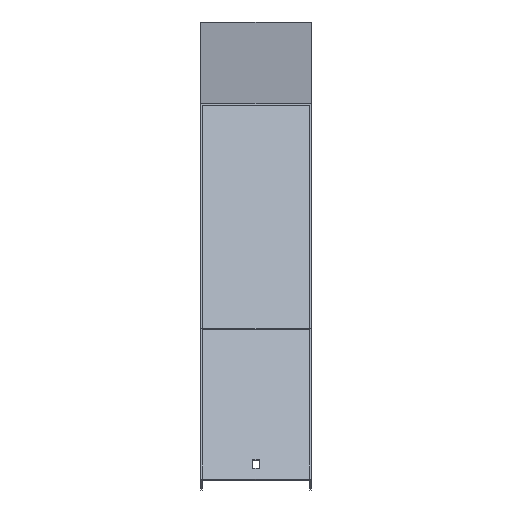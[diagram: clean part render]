
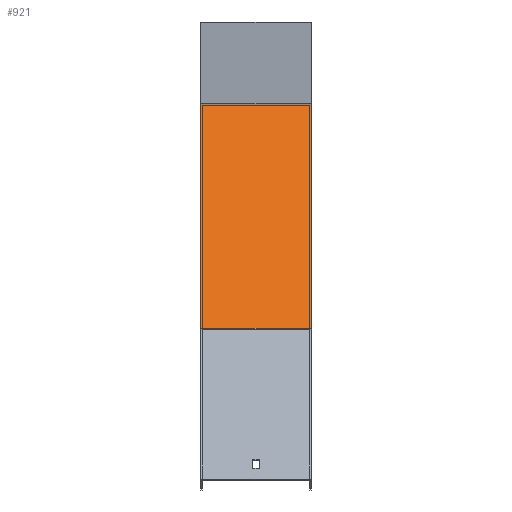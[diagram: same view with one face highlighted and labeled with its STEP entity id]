
A CAD part, top view. The second image highlights one B-rep face of the part: STEP entity #921.
In plain terms, the highlighted planar face has unit normal (0, 0.707, 0.707).
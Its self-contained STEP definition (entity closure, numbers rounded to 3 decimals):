
#19 = LINE ( 'NONE', #862, #489 ) ;
#67 = ORIENTED_EDGE ( 'NONE', *, *, #108, .T. ) ;
#108 = EDGE_CURVE ( 'NONE', #552, #981, #308, .T. ) ;
#110 = DIRECTION ( 'NONE',  ( 0., -0.707, 0.707 ) ) ;
#122 = VECTOR ( 'NONE', #799, 1000. ) ;
#177 = ORIENTED_EDGE ( 'NONE', *, *, #254, .F. ) ;
#198 = PLANE ( 'NONE',  #918 ) ;
#220 = CARTESIAN_POINT ( 'NONE',  ( 51.5, -56.867, 449.505 ) ) ;
#245 = CARTESIAN_POINT ( 'NONE',  ( 51.5, -266.872, 659.51 ) ) ;
#254 = EDGE_CURVE ( 'NONE', #426, #784, #330, .T. ) ;
#308 = LINE ( 'NONE', #220, #632 ) ;
#330 = LINE ( 'NONE', #245, #122 ) ;
#416 = FACE_OUTER_BOUND ( 'NONE', #653, .T. ) ;
#420 = DIRECTION ( 'NONE',  ( 0., -0.707, -0.707 ) ) ;
#426 = VERTEX_POINT ( 'NONE', #826 ) ;
#451 = CARTESIAN_POINT ( 'NONE',  ( 51.5, -56.867, 449.505 ) ) ;
#489 = VECTOR ( 'NONE', #984, 1000. ) ;
#494 = LINE ( 'NONE', #796, #680 ) ;
#552 = VERTEX_POINT ( 'NONE', #451 ) ;
#611 = DIRECTION ( 'NONE',  ( -1., 0., 0. ) ) ;
#615 = ORIENTED_EDGE ( 'NONE', *, *, #869, .F. ) ;
#632 = VECTOR ( 'NONE', #611, 1000. ) ;
#653 = EDGE_LOOP ( 'NONE', ( #686, #177, #615, #67 ) ) ;
#680 = VECTOR ( 'NONE', #110, 1000. ) ;
#686 = ORIENTED_EDGE ( 'NONE', *, *, #700, .T. ) ;
#690 = CARTESIAN_POINT ( 'NONE',  ( -51.5, -56.867, 449.505 ) ) ;
#700 = EDGE_CURVE ( 'NONE', #981, #784, #19, .T. ) ;
#732 = DIRECTION ( 'NONE',  ( 0., 0.707, -0.707 ) ) ;
#784 = VERTEX_POINT ( 'NONE', #785 ) ;
#785 = CARTESIAN_POINT ( 'NONE',  ( -51.5, -266.872, 659.51 ) ) ;
#796 = CARTESIAN_POINT ( 'NONE',  ( 51.5, -60.657, 453.295 ) ) ;
#799 = DIRECTION ( 'NONE',  ( -1., 0., 0. ) ) ;
#803 = CARTESIAN_POINT ( 'NONE',  ( 51.5, -60.657, 453.295 ) ) ;
#826 = CARTESIAN_POINT ( 'NONE',  ( 51.5, -266.872, 659.51 ) ) ;
#862 = CARTESIAN_POINT ( 'NONE',  ( -51.5, -60.657, 453.295 ) ) ;
#869 = EDGE_CURVE ( 'NONE', #552, #426, #494, .T. ) ;
#918 = AXIS2_PLACEMENT_3D ( 'NONE', #803, #420, #732 ) ;
#921 = ADVANCED_FACE ( 'NONE', ( #416 ), #198, .F. ) ;
#981 = VERTEX_POINT ( 'NONE', #690 ) ;
#984 = DIRECTION ( 'NONE',  ( 0., -0.707, 0.707 ) ) ;
